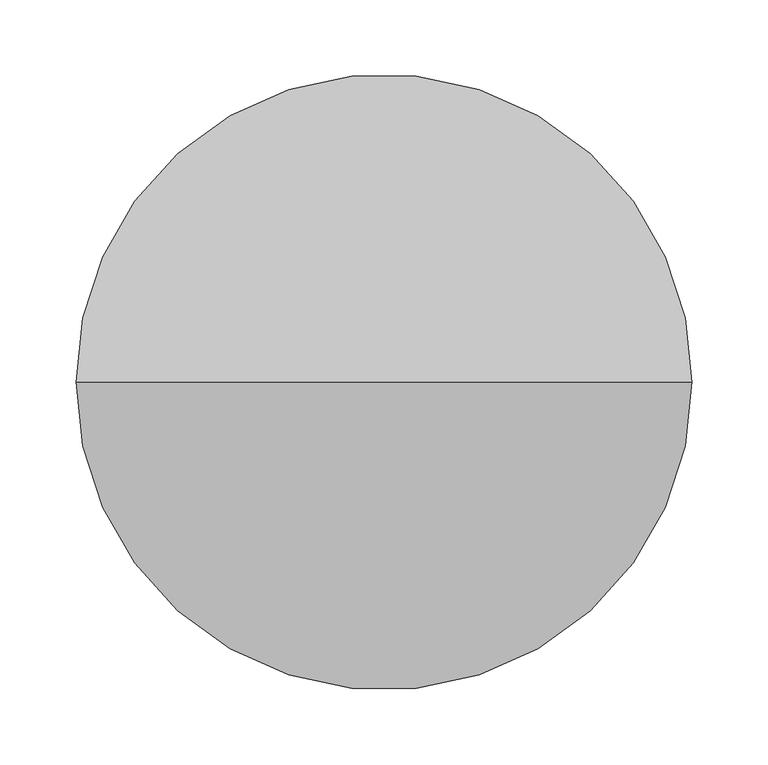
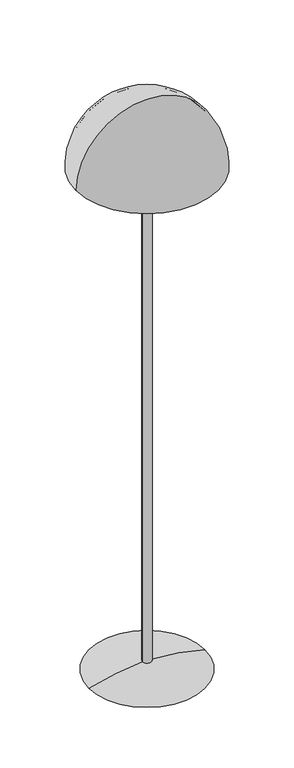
"""IFC4 building model written with IfcOpenShell, lengths in millimetres: light fixture geometry, M_Lamapada da pavimento - Semisferica : 100 watt Incandescente."""

from ifc_helpers import new_model, si_unit, point, frame, origin, origin_with_axes, origin_2d, place, context, project, spatial, polyline, circle_curve, ellipse_curve, trimmed, segment, composite_curve, outline, extrude, source, transform, mapped, element, save
from ifc_brep_helpers import plane_surface, revolved_surface, advanced_brep


def light_fixture_bd9db648(model_context):
    return source(origin(), model_context, "Body", "SolidModel", [
        advanced_brep(
        [(-197.591573, 0.0, 1510.4133868), (197.591573, 0.0, 1510.4133868), (0.0, 0.0, 1707.4075084), (-202.3305676, 0.0, 1510.4133868), (202.3305676, 0.0, 1510.4133868), (0.0, 0.0, 1713.4837615)],
        [
            (0, 1, circle_curve(frame((0.0, 0.0, 1510.4133868), z_axis=(0.0, 0.0, -1.0), x_axis=(1.0, 0.0, 0.0)), 197.591573)),
            (1, 2, circle_curve(frame((0.7416268, 0.0, 1510.5589055), z_axis=(0.0, -1.0, 0.0), x_axis=(1.0, 0.0, 0.0)), 196.85)),
            (2, 0, circle_curve(frame((-0.7416268, 0.0, 1510.5589055), z_axis=(0.0, -1.0, 0.0), x_axis=(-1.0, 0.0, 0.0)), 196.85)),
            (1, 0, circle_curve(frame((0.0, 0.0, 1510.4133868), z_axis=(0.0, 0.0, -1.0), x_axis=(1.0, 0.0, 0.0)), 197.591573)),
            (3, 4, circle_curve(frame((0.0, 0.0, 1510.4133868), z_axis=(0.0, 0.0, -1.0), x_axis=(1.0, 0.0, 0.0)), 202.3305676)),
            (4, 1),
            (0, 3),
            (4, 3, circle_curve(frame((0.0, 0.0, 1510.4133868), z_axis=(0.0, 0.0, -1.0), x_axis=(1.0, 0.0, 0.0)), 202.3305676)),
            (5, 4, circle_curve(frame((-0.8693923, 0.0, 1510.2856214), z_axis=(0.0, 1.0, 0.0), x_axis=(1.0, 0.0, 0.0)), 203.2)),
            (3, 5, circle_curve(frame((0.8693923, 0.0, 1510.2856214), z_axis=(0.0, 1.0, 0.0), x_axis=(-1.0, 0.0, 0.0)), 203.2)),
        ],
        [
            revolved_surface(trimmed(ellipse_curve(frame((0.7416268, 0.0, 1510.5589055), z_axis=(0.0, 1.0, 0.0), x_axis=(1.0, 0.0, 0.0)), 196.85, 196.85), [point((0.0, 0.0, 1707.4075084))], [point((197.591573, 0.0, 1510.4133868))], True, "CARTESIAN"), (0.0, 0.0, 1815.2133868), (0.0, 0.0, 1.0)),
            plane_surface(frame((0.0, 0.0, 1510.4133868), z_axis=(0.0, 0.0, -1.0), x_axis=(1.0, 0.0, 0.0))),
            revolved_surface(trimmed(ellipse_curve(frame((-0.8693923, 0.0, 1510.2856214), z_axis=(0.0, -1.0, 0.0), x_axis=(1.0, 0.0, 0.0)), 203.2, 203.2), [point((202.3305676, 0.0, 1510.4133868))], [point((0.0, 0.0, 1713.4837615))], True, "CARTESIAN"), (0.0, 0.0, 1815.2133868), (0.0, 0.0, 1.0)),
        ],
        [
            (0, [[1, 2, 3]]),
            (0, [[4, -3, -2]]),
            (1, [[5, 6, -1, 7]]),
            (1, [[8, -7, -4, -6]]),
            (2, [[9, -5, 10]]),
            (2, [[-10, -8, -9]]),
        ],
    ),
        advanced_brep(
        [(-165.1, 0.0, 0.0), (165.1, 0.0, 0.0), (12.7, 0.0, 0.0), (-12.7, 0.0, 0.0), (-12.7, 0.0, 25.4), (12.7, 0.0, 25.4)],
        [
            (0, 1, circle_curve(frame((0.0, 0.0, 0.0), z_axis=(0.0, 0.0, -1.0), x_axis=(1.0, 0.0, 0.0)), 165.1)),
            (1, 2),
            (2, 3, circle_curve(origin_with_axes(), 12.7)),
            (3, 0),
            (1, 0, circle_curve(frame((0.0, 0.0, 0.0), z_axis=(0.0, 0.0, -1.0), x_axis=(1.0, 0.0, 0.0)), 165.1)),
            (3, 2, circle_curve(origin_with_axes(), 12.7)),
            (4, 5, circle_curve(frame((0.0, 0.0, 25.4), z_axis=(0.0, 0.0, -1.0), x_axis=(1.0, 0.0, 0.0)), 12.7)),
            (5, 1, circle_curve(frame((-10.5405788, 0.0, -583.9434729), z_axis=(0.0, 1.0, 0.0), x_axis=(1.0, 0.0, 0.0)), 609.7865138)),
            (0, 4, circle_curve(frame((10.5405788, 0.0, -583.9434729), z_axis=(0.0, 1.0, 0.0), x_axis=(-1.0, 0.0, 0.0)), 609.7865138)),
            (5, 4, circle_curve(frame((0.0, 0.0, 25.4), z_axis=(0.0, 0.0, -1.0), x_axis=(1.0, 0.0, 0.0)), 12.7)),
            (2, 5),
            (4, 3),
        ],
        [
            plane_surface(frame((0.0, 0.0, 0.0), z_axis=(0.0, 0.0, -1.0), x_axis=(1.0, 0.0, 0.0))),
            revolved_surface(trimmed(ellipse_curve(frame((-10.5405788, 0.0, -583.9434729), z_axis=(0.0, -1.0, 0.0), x_axis=(1.0, 0.0, 0.0)), 609.7865138, 609.7865138), [point((165.1, 0.0, 0.0))], [point((12.7, 0.0, 25.4))], True, "CARTESIAN"), (0.0, 0.0, 127.0), (0.0, 0.0, 1.0)),
            revolved_surface(polyline([(12.7, 0.0, 25.400000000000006), (12.7, 0.0, 0.0)]), (0.0, 0.0, 127.0), (0.0, 0.0, 1.0)),
        ],
        [
            (0, [[1, 2, 3, 4]]),
            (0, [[5, -4, 6, -2]]),
            (1, [[7, 8, -1, 9]]),
            (1, [[10, -9, -5, -8]]),
            (2, [[-3, 11, -7, 12]]),
            (2, [[-6, -12, -10, -11]]),
        ],
    ),
        extrude(outline(composite_curve([segment(trimmed(circle_curve(origin_2d(), 12.7), [point((-12.7, 0.0))], [point((12.7, 0.0))], False, "CARTESIAN"), True, "CONTINUOUS"), segment(trimmed(circle_curve(origin_2d(), 12.7), [point((12.7, 0.0))], [point((-12.7, 0.0))], False, "CARTESIAN"), True, "CONTINUOUS")], self_intersect=False)), frame((0.0, 0.0, 25.4), z_axis=(0.0, 0.0, 1.0), x_axis=(1.0, 0.0, 0.0)), (0.0, 0.0, 1.0), 1524.0),
    ])


if __name__ == "__main__":
    model = new_model("IFC4")
    model_context = context("Model", 3, world=origin())
    ifc_project = project(units=[si_unit("LENGTHUNIT", "METRE", prefix="MILLI")], contexts=[model_context])
    site = spatial("IfcSite", under=ifc_project)
    building = spatial("IfcBuilding", under=site)
    placement = place(None, origin())
    light_fixture_shape = light_fixture_bd9db648(model_context)
    element("IfcLightFixture", 1, ObjectType="M_Lamapada da pavimento - Semisferica : 100 watt Incandescente", at=placement, inside=building, context=model_context, shape_type="MappedRepresentation", body=[
        mapped(light_fixture_shape, transform((0.0, 0.0, 0.0), x_axis=(1.0, 0.0, 0.0), y_axis=(0.0, 1.0, 0.0), z_axis=(0.0, 0.0, 1.0))),
    ])
    save(model, "model.ifc")
